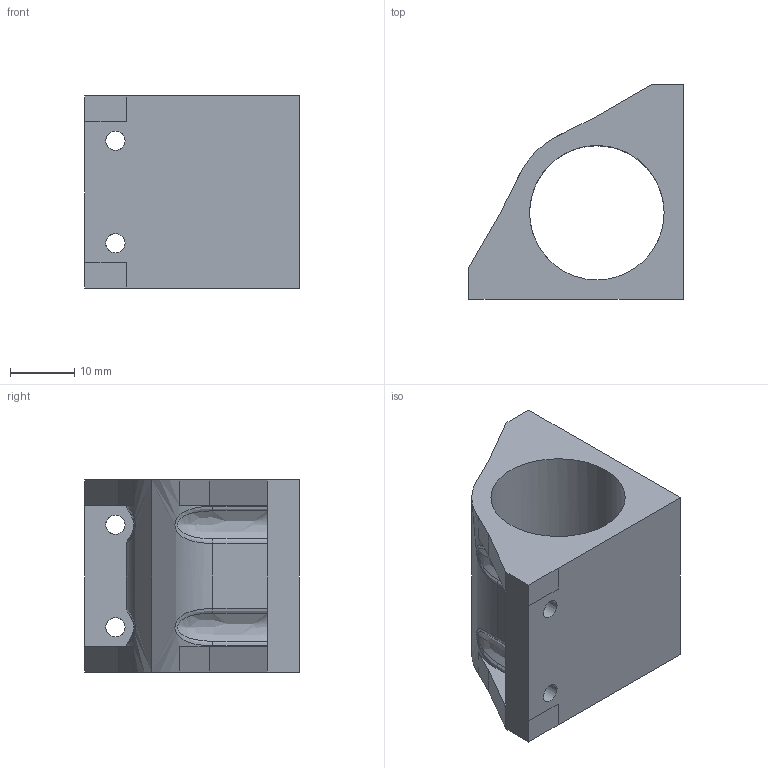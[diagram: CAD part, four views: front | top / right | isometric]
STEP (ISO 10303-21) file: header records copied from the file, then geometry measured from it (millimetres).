
FILE_DESCRIPTION(/* description */ (''),/* implementation_level */ '2;1');
FILE_NAME(/* name */ 'SOPORT~3',/* time_stamp */ '2019-04-01T20:10:54-03:00',/* author */ (''),/* organization */ (''),/* preprocessor_version */ 'ST-DEVELOPER v16.5',/* originating_system */ '',/* authorisation */ '');
FILE_SCHEMA (('AUTOMOTIVE_DESIGN'));
Length unit declared in the file: millimetre
Products named in the file (1): Document
Bounding box: 33.53 x 33.53 x 30 mm (x, y, z)
Volume: 12431.6 mm3; surface area: 7035.9 mm2
Topology: 1 solids, 1 shells, 68 faces, 178 edges, 112 vertices
Faces by surface type: bspline 40, plane 28
Entity records: 2427 total; most frequent: CARTESIAN_POINT 1403, ORIENTED_EDGE 356, EDGE_CURVE 178, VERTEX_POINT 112, EDGE_LOOP 78, ADVANCED_FACE 68, FACE_OUTER_BOUND 68, B_SPLINE_CURVE_WITH_KNOTS 45
